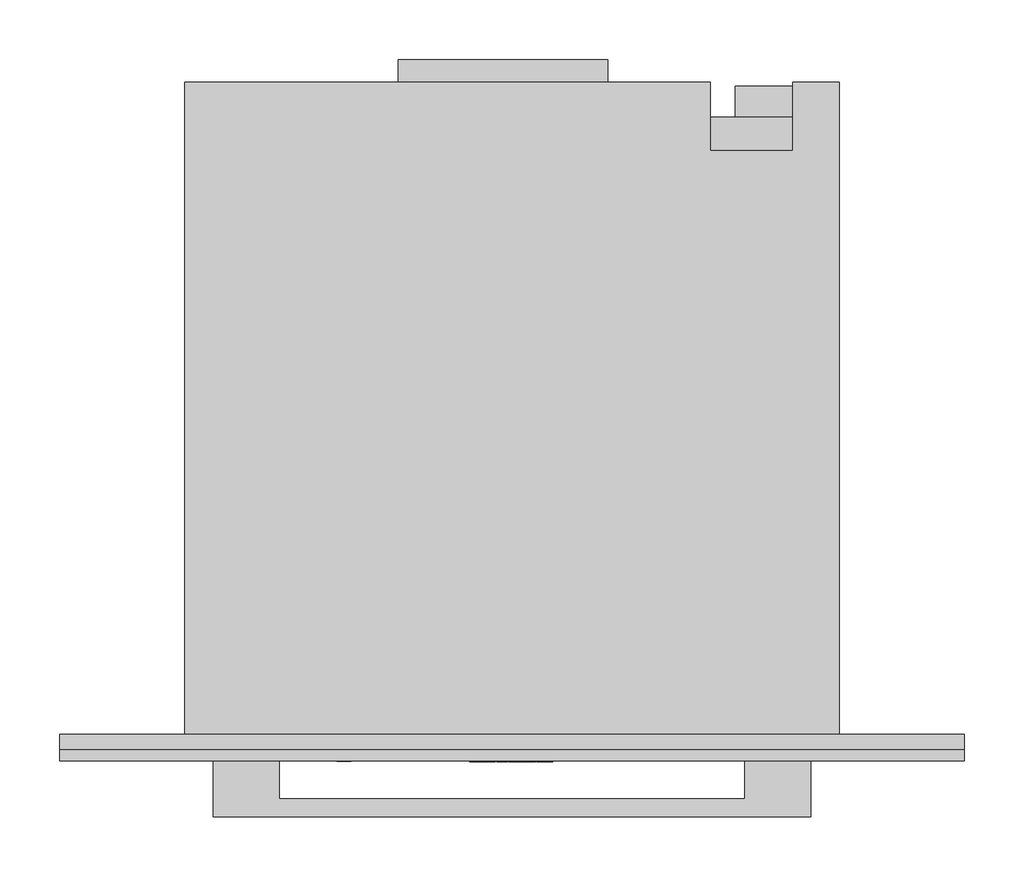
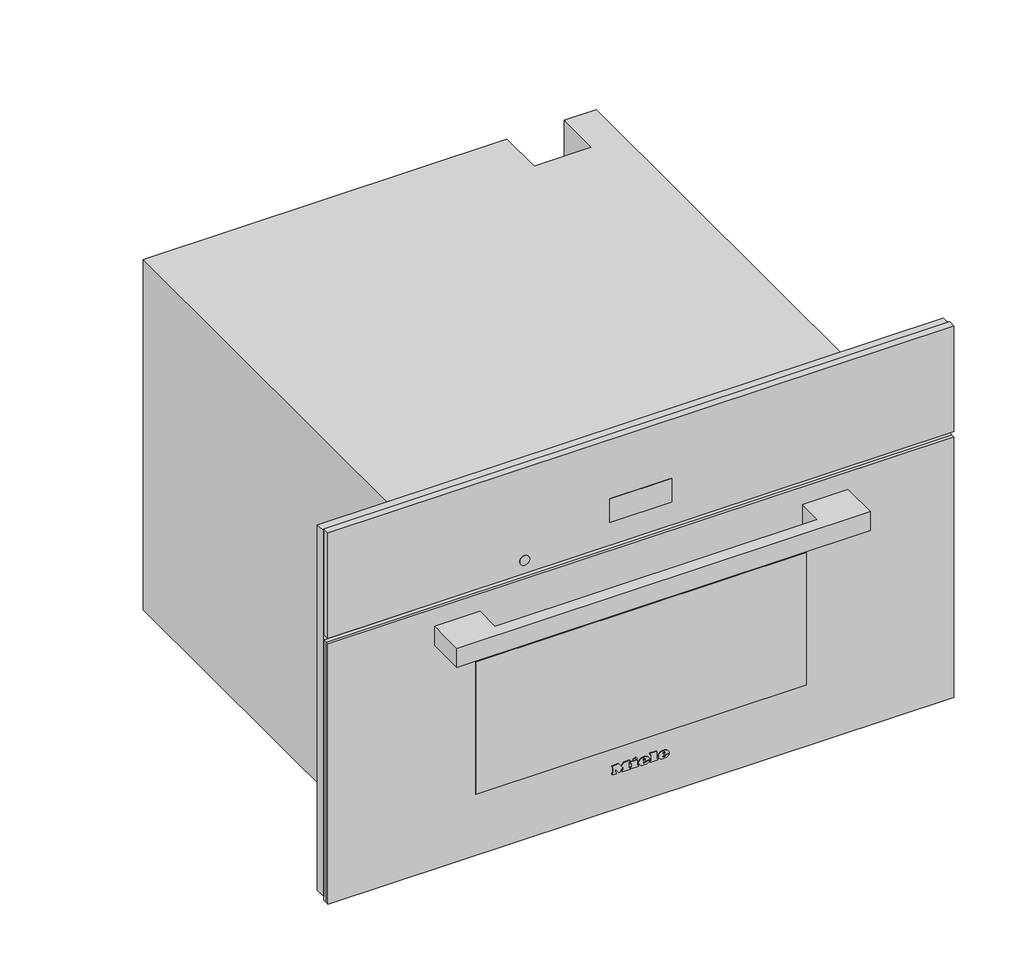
# Not in any storey: 1 proxy.
"""IFC4 building model written with IfcOpenShell, lengths in millimetres."""

from ifc_helpers import new_model, si_unit, origin, place, context, project, spatial, transform, mapped, element, save
from components import specialty_equipment_d32a2233

model = new_model("IFC4")

# Units and contexts
model_context = context("Model", 3, world=origin())
ifc_project = project(units=[si_unit("LENGTHUNIT", "METRE", prefix="MILLI")], contexts=[model_context])

# Site, building
site = spatial("IfcSite", under=ifc_project)
building = spatial("IfcBuilding", under=site)

# Proxy
placement = place(None, origin())
specialty_equipment_shape = specialty_equipment_d32a2233(model_context)
element("IfcBuildingElementProxy", 1, Name="11987060_USA_DGC7470_OBSW : 23747022_USA_11987060_DGC7470_OBSW", ObjectType="11987060_USA_DGC7470_OBSW : 23747022_USA_11987060_DGC7470_OBSW", at=placement, inside=building, context=model_context, shape_type="MappedRepresentation", body=[
    mapped(specialty_equipment_shape, transform((0.0, 0.0, 0.0), x_axis=(1.0, 0.0, 0.0), y_axis=(0.0, 1.0, 0.0), z_axis=(0.0, 0.0, 1.0))),
])

save(model, "model.ifc")
